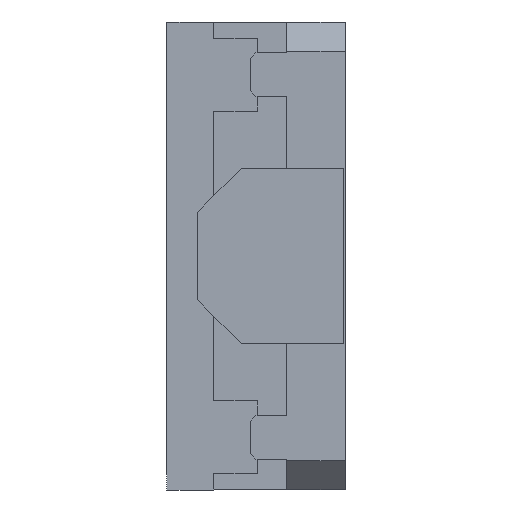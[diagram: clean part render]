
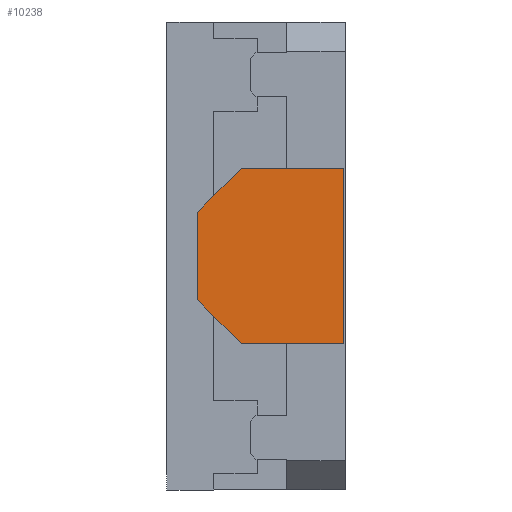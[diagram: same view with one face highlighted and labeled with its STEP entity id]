
A CAD part, left-side view. The second image highlights one B-rep face of the part: STEP entity #10238.
In plain terms, the highlighted planar face has unit normal (-1, 0, 0).
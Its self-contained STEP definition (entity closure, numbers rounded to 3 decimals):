
#245 = EDGE_CURVE ( 'NONE', #10173, #5600, #10048, .T. ) ;
#379 = ORIENTED_EDGE ( 'NONE', *, *, #2172, .T. ) ;
#844 = CARTESIAN_POINT ( 'NONE',  ( -294.22, 347.454, 452.721 ) ) ;
#920 = ORIENTED_EDGE ( 'NONE', *, *, #10217, .T. ) ;
#940 = FACE_OUTER_BOUND ( 'NONE', #2119, .T. ) ;
#1393 = CARTESIAN_POINT ( 'NONE',  ( -294.22, 400.088, 400.088 ) ) ;
#1848 = VECTOR ( 'NONE', #2663, 1000. ) ;
#2092 = EDGE_CURVE ( 'NONE', #5120, #10173, #6459, .T. ) ;
#2119 = EDGE_LOOP ( 'NONE', ( #11376, #379, #2865, #920, #15221, #11350 ) ) ;
#2172 = EDGE_CURVE ( 'NONE', #5600, #9004, #4429, .T. ) ;
#2320 = CARTESIAN_POINT ( 'NONE',  ( -294.22, 362.454, 407.721 ) ) ;
#2325 = CARTESIAN_POINT ( 'NONE',  ( -294.22, 362.454, 437.721 ) ) ;
#2574 = CARTESIAN_POINT ( 'NONE',  ( -294.22, 312.454, 452.721 ) ) ;
#2663 = DIRECTION ( 'NONE',  ( 0., 0.707, -0.707 ) ) ;
#2718 = DIRECTION ( 'NONE',  ( 0., -0.707, -0.707 ) ) ;
#2865 = ORIENTED_EDGE ( 'NONE', *, *, #3228, .T. ) ;
#3228 = EDGE_CURVE ( 'NONE', #9004, #3804, #15949, .T. ) ;
#3804 = VERTEX_POINT ( 'NONE', #13930 ) ;
#3818 = CARTESIAN_POINT ( 'NONE',  ( -294.22, 0., 0. ) ) ;
#3861 = CARTESIAN_POINT ( 'NONE',  ( -294.22, 362.454, 392.721 ) ) ;
#4429 = LINE ( 'NONE', #10630, #12095 ) ;
#4987 = PLANE ( 'NONE',  #9218 ) ;
#5120 = VERTEX_POINT ( 'NONE', #844 ) ;
#5600 = VERTEX_POINT ( 'NONE', #2320 ) ;
#6459 = LINE ( 'NONE', #1393, #1848 ) ;
#6918 = EDGE_CURVE ( 'NONE', #14338, #5120, #8979, .T. ) ;
#7969 = VECTOR ( 'NONE', #13261, 1000. ) ;
#8128 = VECTOR ( 'NONE', #10154, 1000. ) ;
#8797 = DIRECTION ( 'NONE',  ( 0., 0., 1. ) ) ;
#8847 = CARTESIAN_POINT ( 'NONE',  ( -294.22, 312.454, 392.721 ) ) ;
#8979 = LINE ( 'NONE', #15621, #7969 ) ;
#9004 = VERTEX_POINT ( 'NONE', #14422 ) ;
#9218 = AXIS2_PLACEMENT_3D ( 'NONE', #3818, #10167, #10282 ) ;
#9980 = VECTOR ( 'NONE', #8797, 1000. ) ;
#10048 = LINE ( 'NONE', #3861, #16301 ) ;
#10154 = DIRECTION ( 'NONE',  ( 0., -1., 0. ) ) ;
#10167 = DIRECTION ( 'NONE',  ( -1., 0., 0. ) ) ;
#10173 = VERTEX_POINT ( 'NONE', #2325 ) ;
#10217 = EDGE_CURVE ( 'NONE', #3804, #14338, #10795, .T. ) ;
#10238 = ADVANCED_FACE ( 'NONE', ( #940 ), #4987, .T. ) ;
#10282 = DIRECTION ( 'NONE',  ( 0., 0., 1. ) ) ;
#10630 = CARTESIAN_POINT ( 'NONE',  ( -294.22, -22.633, 22.633 ) ) ;
#10795 = LINE ( 'NONE', #8847, #9980 ) ;
#11350 = ORIENTED_EDGE ( 'NONE', *, *, #2092, .T. ) ;
#11376 = ORIENTED_EDGE ( 'NONE', *, *, #245, .T. ) ;
#12095 = VECTOR ( 'NONE', #2718, 1000. ) ;
#13261 = DIRECTION ( 'NONE',  ( 0., 1., 0. ) ) ;
#13930 = CARTESIAN_POINT ( 'NONE',  ( -294.22, 312.454, 392.721 ) ) ;
#14114 = DIRECTION ( 'NONE',  ( 0., 0., -1. ) ) ;
#14338 = VERTEX_POINT ( 'NONE', #2574 ) ;
#14422 = CARTESIAN_POINT ( 'NONE',  ( -294.22, 347.454, 392.721 ) ) ;
#15132 = CARTESIAN_POINT ( 'NONE',  ( -294.22, 362.454, 392.721 ) ) ;
#15221 = ORIENTED_EDGE ( 'NONE', *, *, #6918, .T. ) ;
#15621 = CARTESIAN_POINT ( 'NONE',  ( -294.22, 362.454, 452.721 ) ) ;
#15949 = LINE ( 'NONE', #15132, #8128 ) ;
#16301 = VECTOR ( 'NONE', #14114, 1000. ) ;
